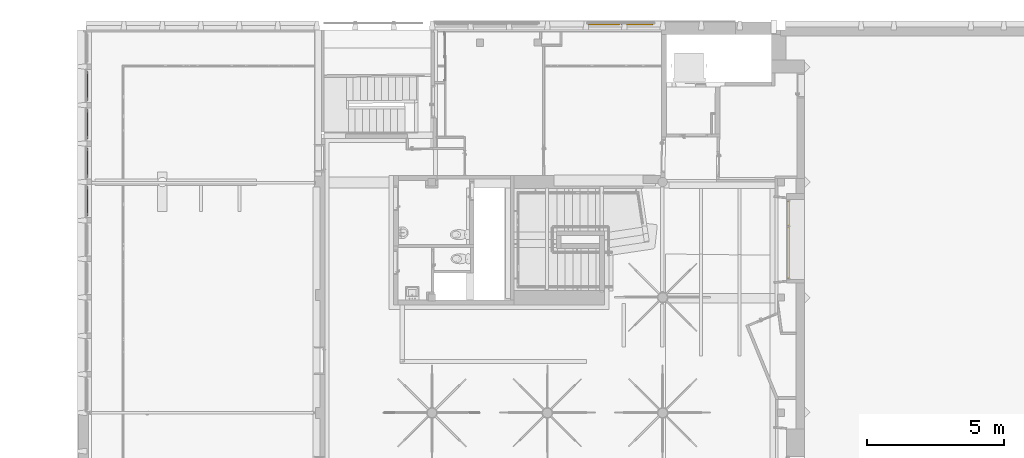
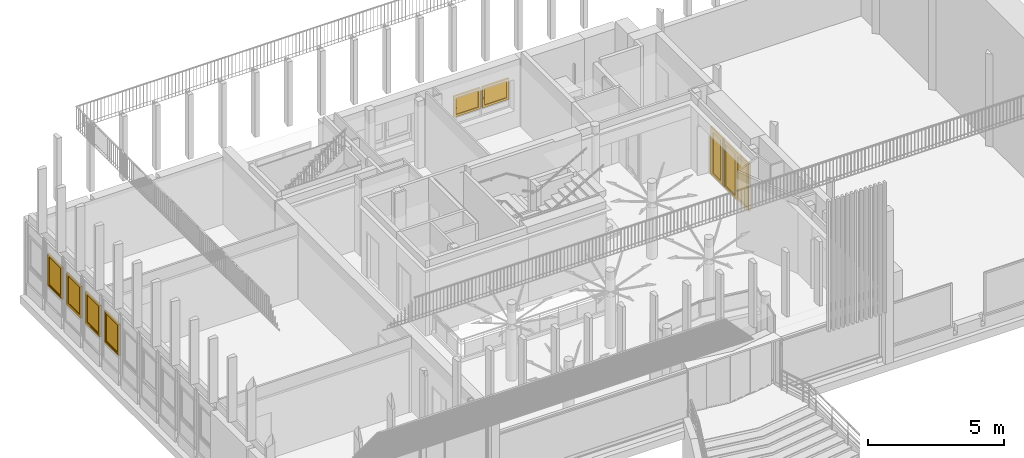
# One storey, part 50 of 65: 6 windows, 2 doors, 6 elements without a shape of their own.
"""IFC4 building model written with IfcOpenShell, lengths in metres."""

from ifc_helpers import new_model, entity, si_unit, converted_unit, derived_unit, direction, frame, origin, place, context, subcontext, project, spatial, indexed_curve, outline, extrude, polygons, source, transform, mapped, material, material_list, constituent, constituent_set, type_object, type_shapes, element, aggregate, save


model = new_model("IFC4")

# Units and contexts
model_context = context("Model", 3, precision=1e-05, world=origin(), true_north=direction((6.12303176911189e-17, 1.0)))
body_context = subcontext(model_context, "Body", "Model", "MODEL_VIEW")
ifc_project = project(units=[si_unit("LENGTHUNIT", "METRE"), si_unit("AREAUNIT", "SQUARE_METRE"), si_unit("VOLUMEUNIT", "CUBIC_METRE"), converted_unit("PLANEANGLEUNIT", "DEGREE", entity("IfcRatioMeasure", 0.0174532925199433), si_unit("PLANEANGLEUNIT", "RADIAN"), dimensions=[0, 0, 0, 0, 0, 0, 0]), si_unit("MASSUNIT", "GRAM", prefix="KILO"), derived_unit("MASSDENSITYUNIT", [(si_unit("MASSUNIT", "GRAM", prefix="KILO"), 1), (si_unit("LENGTHUNIT", "METRE"), -3)]), derived_unit("MOMENTOFINERTIAUNIT", [(si_unit("LENGTHUNIT", "METRE"), 4)]), si_unit("TIMEUNIT", "SECOND"), si_unit("FREQUENCYUNIT", "HERTZ"), si_unit("THERMODYNAMICTEMPERATUREUNIT", "DEGREE_CELSIUS"), derived_unit("THERMALTRANSMITTANCEUNIT", [(si_unit("MASSUNIT", "GRAM", prefix="KILO"), 1), (si_unit("THERMODYNAMICTEMPERATUREUNIT", "KELVIN"), -1), (si_unit("TIMEUNIT", "SECOND"), -3)]), derived_unit("VOLUMETRICFLOWRATEUNIT", [(si_unit("LENGTHUNIT", "METRE"), 3), (si_unit("TIMEUNIT", "SECOND"), -1)]), si_unit("ELECTRICCURRENTUNIT", "AMPERE"), si_unit("ELECTRICVOLTAGEUNIT", "VOLT"), si_unit("POWERUNIT", "WATT"), si_unit("FORCEUNIT", "NEWTON", prefix="KILO"), si_unit("ILLUMINANCEUNIT", "LUX"), si_unit("LUMINOUSFLUXUNIT", "LUMEN"), si_unit("LUMINOUSINTENSITYUNIT", "CANDELA"), derived_unit("USERDEFINED", [(si_unit("MASSUNIT", "GRAM", prefix="KILO"), -1), (si_unit("LENGTHUNIT", "METRE"), -2), (si_unit("TIMEUNIT", "SECOND"), 3), (si_unit("LUMINOUSFLUXUNIT", "LUMEN"), 1)]), derived_unit("LINEARVELOCITYUNIT", [(si_unit("LENGTHUNIT", "METRE"), 1), (si_unit("TIMEUNIT", "SECOND"), -1)]), si_unit("PRESSUREUNIT", "PASCAL"), derived_unit("USERDEFINED", [(si_unit("LENGTHUNIT", "METRE"), -2), (si_unit("MASSUNIT", "GRAM", prefix="KILO"), 1), (si_unit("TIMEUNIT", "SECOND"), -2)]), derived_unit("LINEARFORCEUNIT", [(si_unit("MASSUNIT", "GRAM", prefix="KILO"), 1), (si_unit("LENGTHUNIT", "METRE"), 1), (si_unit("TIMEUNIT", "SECOND"), -2), (si_unit("LENGTHUNIT", "METRE"), -1)]), derived_unit("PLANARFORCEUNIT", [(si_unit("MASSUNIT", "GRAM", prefix="KILO"), 1), (si_unit("LENGTHUNIT", "METRE"), 1), (si_unit("TIMEUNIT", "SECOND"), -2), (si_unit("LENGTHUNIT", "METRE"), -2)])], contexts=[model_context])

# Site, building, storey
site_placement = place(None, origin())
site = spatial("IfcSite", under=ifc_project, at=site_placement, Name="Default", CompositionType="ELEMENT")
building_placement = place(site_placement, origin())
building = spatial("IfcBuilding", under=site, at=building_placement, Name="HOTEL CONSULAIRE BOULOGNE SUR MER", CompositionType="ELEMENT")
storey_placement = place(building_placement, origin())
storey = spatial("IfcBuildingStorey", under=building, at=storey_placement, Name="Niveau 0", CompositionType="ELEMENT", Elevation=1.31981936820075e-13)

# Curtain wall, doors
curtain_wall_type = type_object("IfcCurtainWallType", Name="Mur-rideau:Simple panneau", PredefinedType="NOTDEFINED")
curtain_wall_1_placement = place(storey_placement, origin())
curtain_wall_1 = element("IfcCurtainWall", 1, at=curtain_wall_1_placement, inside=storey, type_object=curtain_wall_type, Name="Mur-rideau:Simple panneau", ObjectType="Mur-rideau:Simple panneau", PredefinedType="NOTDEFINED")
ifc_material_1 = material(Name="PVC, souple", Category="Plastique")
ifc_constituent_1 = constituent(ifc_material_1, Name="PVC, souple", Category="Matériaux")
ifc_material_2 = material(Name="Verre", Category="Verre")
ifc_constituent_2 = constituent(ifc_material_2, Name="Verre", Category="Matériaux")
ifc_constituent_set_1 = constituent_set(constituents=[ifc_constituent_1, ifc_constituent_2], Name="MaterialConstituentSet")
ifc_material_list_1 = material_list([ifc_material_1, ifc_material_1, ifc_material_1])
door_type_1 = type_object("IfcDoorType", Name="Simple vitrée 1:Simple vitrée 1", OperationType="SINGLE_SWING_RIGHT", PredefinedType="DOOR", material=ifc_material_list_1)
shared_shape_1 = source(origin(), body_context, "Body", "SweptSolid", [
    extrude(outline(indexed_curve([(0.397976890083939, -1.05645752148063), (0.447976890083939, -1.05645752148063), (0.447976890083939, 1.08145752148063), (-0.447976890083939, 1.08145752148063), (-0.447976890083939, -1.05645752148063), (-0.397976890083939, -1.05645752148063), (-0.397976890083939, 1.03145752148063), (0.397976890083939, 1.03145752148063), (0.397976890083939, -1.05645752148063)], self_intersect=False)), frame((0.0, -0.045, 1.05645752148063), z_axis=(0.0, 1.0, 0.0), x_axis=(-1.0, 0.0, 0.0)), (0.0, 0.0, 1.0), 0.07),
    extrude(outline(indexed_curve([(-0.277976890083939, -0.005), (0.277976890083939, -0.005), (0.277976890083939, 0.005), (-0.277976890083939, 0.005), (-0.277976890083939, -0.005)], self_intersect=False)), frame((0.0, -0.00999999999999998, 0.12), z_axis=(0.0, 0.0, 1.0), x_axis=(-1.0, 0.0, 0.0)), (0.0, 0.0, 1.0), 1.84791504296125),
    extrude(outline(indexed_curve([(-1.04395752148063, -0.397976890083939), (1.04395752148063, -0.397976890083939), (1.04395752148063, 0.397976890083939), (-1.04395752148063, 0.397976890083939), (-1.04395752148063, -0.397976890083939)], self_intersect=False), holes=[indexed_curve([(-0.923957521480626, -0.277976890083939), (-0.923957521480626, 0.277976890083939), (0.923957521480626, 0.277976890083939), (0.923957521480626, -0.277976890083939), (-0.923957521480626, -0.277976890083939)], self_intersect=False)]), frame((0.0, -0.035, 1.04395752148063), z_axis=(0.0, 1.0, 0.0), x_axis=(0.0, 0.0, -1.0)), (0.0, 0.0, 1.0), 0.05),
])
type_shapes(door_type_1, [shared_shape_1])
door_1_placement = place(curtain_wall_1_placement, frame((11.7425810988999, -16.7524664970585, 0.0), z_axis=(0.0, 0.0, 1.0), x_axis=(0.0, -1.0, 0.0)))
door_1 = element("IfcDoor", 2, at=door_1_placement, type_object=door_type_1, material=ifc_constituent_set_1, Name="Simple vitrée 1:Simple vitrée 1", ObjectType="Simple vitrée 1:Simple vitrée 1", OperationType="SINGLE_SWING_RIGHT", OverallHeight=2.13791504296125, OverallWidth=0.895953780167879, PredefinedType="DOOR", context=body_context, shape_type="MappedRepresentation", body=[
    mapped(shared_shape_1, transform((0.0, 0.0, 0.0), scale=1.0)),
])
ifc_constituent_3 = constituent(ifc_material_1, Name="PVC, souple", Category="Matériaux")
ifc_constituent_4 = constituent(ifc_material_2, Name="Verre", Category="Matériaux")
ifc_constituent_set_2 = constituent_set(constituents=[ifc_constituent_3, ifc_constituent_4], Name="MaterialConstituentSet")
ifc_material_list_2 = material_list([ifc_material_1, ifc_material_1, ifc_material_1])
door_type_2 = type_object("IfcDoorType", Name="Double vitrée1:Double vitrée1", OperationType="SWING_FIXED_RIGHT", PredefinedType="DOOR", material=ifc_material_list_2)
shared_shape_2 = source(origin(), body_context, "Body", "SweptSolid", [
    extrude(outline(indexed_curve([(0.883453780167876, -1.05645752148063), (0.933453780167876, -1.05645752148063), (0.933453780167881, 1.08145752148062), (-0.933453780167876, 1.08145752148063), (-0.933453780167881, -1.05645752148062), (-0.883453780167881, -1.05645752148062), (-0.883453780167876, 1.03145752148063), (0.88345378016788, 1.03145752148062), (0.883453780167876, -1.05645752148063)], self_intersect=False)), frame((0.0, -0.0449999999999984, 1.05645752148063), z_axis=(0.0, 1.0, 0.0), x_axis=(-1.0, 0.0, 0.0)), (0.0, 0.0, 1.0), 0.07),
    extrude(outline(indexed_curve([(-0.341726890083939, -0.005), (0.341726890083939, -0.005), (0.341726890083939, 0.005), (-0.341726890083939, 0.005), (-0.341726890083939, -0.005)], self_intersect=False)), frame((0.441726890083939, -0.00999999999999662, 0.1), z_axis=(0.0, 0.0, 1.0), x_axis=(-1.0, 0.0, 0.0)), (0.0, 0.0, 1.0), 1.88791504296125),
    extrude(outline(indexed_curve([(-0.441726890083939, -1.04395752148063), (0.441726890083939, -1.04395752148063), (0.441726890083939, 1.04395752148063), (-0.441726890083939, 1.04395752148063), (-0.441726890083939, -1.04395752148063)], self_intersect=False), holes=[indexed_curve([(-0.341726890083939, 0.943957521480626), (0.341726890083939, 0.943957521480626), (0.341726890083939, -0.943957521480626), (-0.341726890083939, -0.943957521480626), (-0.341726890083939, 0.943957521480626)], self_intersect=False)]), frame((0.441726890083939, -0.0349999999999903, 1.04395752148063), z_axis=(0.0, 1.0, 0.0), x_axis=(-1.0, 0.0, 0.0)), (0.0, 0.0, 1.0), 0.05),
    extrude(outline(indexed_curve([(-0.341726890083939, -0.005), (0.341726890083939, -0.005), (0.341726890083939, 0.005), (-0.341726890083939, 0.005), (-0.341726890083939, -0.005)], self_intersect=False)), frame((-0.441726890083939, -0.0099999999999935, 0.1), z_axis=(0.0, 0.0, 1.0), x_axis=(-1.0, 0.0, 0.0)), (0.0, 0.0, 1.0), 1.88791504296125),
    extrude(outline(indexed_curve([(-1.04395752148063, -0.441726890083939), (1.04395752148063, -0.441726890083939), (1.04395752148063, 0.441726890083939), (-1.04395752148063, 0.441726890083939), (-1.04395752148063, -0.441726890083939)], self_intersect=False), holes=[indexed_curve([(-0.943957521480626, -0.341726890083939), (-0.943957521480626, 0.341726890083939), (0.943957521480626, 0.341726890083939), (0.943957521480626, -0.341726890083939), (-0.943957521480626, -0.341726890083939)], self_intersect=False)]), frame((-0.441726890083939, -0.0349999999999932, 1.04395752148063), z_axis=(0.0, 1.0, 0.0), x_axis=(0.0, 0.0, -1.0)), (0.0, 0.0, 1.0), 0.05),
])
type_shapes(door_type_2, [shared_shape_2])
door_2_placement = place(curtain_wall_1_placement, frame((11.7425810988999, -18.1838971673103, 0.0), z_axis=(0.0, 0.0, 1.0), x_axis=(0.0, -1.0, 0.0)))
door_2 = element("IfcDoor", 3, at=door_2_placement, type_object=door_type_2, material=ifc_constituent_set_2, Name="Double vitrée1:Double vitrée1", ObjectType="Double vitrée1:Double vitrée1", OperationType="SWING_FIXED_RIGHT", OverallHeight=2.13791504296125, OverallWidth=1.86690756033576, PredefinedType="DOOR", context=body_context, shape_type="MappedRepresentation", body=[
    mapped(shared_shape_2, transform((0.0, 0.0, 0.0), scale=1.0)),
])
aggregate(curtain_wall_1, [door_1, door_2])

# Curtain wall, window
curtain_wall_2_placement = place(storey_placement, origin())
curtain_wall_2 = element("IfcCurtainWall", 4, at=curtain_wall_2_placement, inside=storey, type_object=curtain_wall_type, Name="Mur-rideau:Simple panneau", ObjectType="Mur-rideau:Simple panneau", PredefinedType="NOTDEFINED")
ifc_material_3 = material(Name="PVC - Blanc", Category="Plastique")
ifc_constituent_5 = constituent(ifc_material_3, Name="PVC - Blanc", Category="Matériaux")
ifc_material_4 = material(Name="Fenêtre - Vitrage", Category="Verre")
ifc_constituent_6 = constituent(ifc_material_4, Name="Fenêtre - Vitrage", Category="Matériaux")
ifc_constituent_set_3 = constituent_set(constituents=[ifc_constituent_5, ifc_constituent_6], Name="MaterialConstituentSet")
ifc_material_list_3 = material_list([ifc_material_3, ifc_material_3])
window_type_1 = type_object("IfcWindowType", Name="MR 1 Vantail:MR 1 Vantail", PartitioningType="NOTDEFINED", PredefinedType="WINDOW", material=ifc_material_list_3)
shared_shape_3 = source(origin(), body_context, "Body", "Tessellation", [
    polygons([(-0.460646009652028, -0.0492408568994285, 0.472033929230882), (-0.449353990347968, -0.0492408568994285, 0.472033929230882), (-0.447966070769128, -0.0492408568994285, 0.470646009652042), (-0.447966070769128, -0.0492408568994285, 0.459332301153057), (-0.449332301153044, -0.0492408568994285, 0.457966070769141), (-0.460667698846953, -0.0492408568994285, 0.457966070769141), (-0.462033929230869, -0.0492408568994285, 0.459332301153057), (-0.462033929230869, -0.0492408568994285, 0.470646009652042), (-0.462033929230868, -0.0615795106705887, 0.470646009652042), (-0.460646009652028, -0.0621544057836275, 0.472033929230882), (-0.462033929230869, -0.0568932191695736, 0.459332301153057), (-0.462033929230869, -0.063573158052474, 0.452652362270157), (-0.462033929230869, -0.0635731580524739, 0.370000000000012), (-0.462033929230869, -0.0748868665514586, 0.370000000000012), (-0.462033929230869, -0.0748868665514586, 0.457338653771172), (-0.460667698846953, -0.0563273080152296, 0.457966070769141), (-0.449332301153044, -0.0563273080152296, 0.457966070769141), (-0.447966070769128, -0.0568932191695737, 0.459332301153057), (-0.447966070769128, -0.0615795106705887, 0.470646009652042), (-0.447966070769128, -0.0748868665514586, 0.457338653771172), (-0.447966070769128, -0.0748868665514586, 0.370000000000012), (-0.447966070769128, -0.0635731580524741, 0.370000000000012), (-0.447966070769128, -0.0635731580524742, 0.452652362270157), (-0.449353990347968, -0.0621544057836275, 0.472033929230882), (-0.460646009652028, -0.0762747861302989, 0.457913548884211), (-0.460667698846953, -0.0622069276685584, 0.452086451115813), (-0.449332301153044, -0.0622069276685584, 0.452086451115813), (-0.449353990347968, -0.0762747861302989, 0.457913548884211), (-0.460646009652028, -0.0762747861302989, 0.370000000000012), (-0.460667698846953, -0.0622069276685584, 0.370000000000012), (-0.449332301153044, -0.0622069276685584, 0.370000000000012), (-0.449353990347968, -0.0762747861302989, 0.370000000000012)], [[[6, 7, 8, 1, 2, 3, 4, 5]], [[30, 26, 27, 31]], [[9, 10, 1, 8]], [[11, 12, 13, 14, 15, 9, 8, 7]], [[16, 11, 7, 6]], [[16, 6, 5, 17]], [[31, 22, 21, 32, 29, 14, 13, 30]], [[17, 5, 4, 18]], [[3, 19, 20, 21, 22, 23, 18, 4]], [[19, 3, 2, 24]], [[24, 2, 1, 10]], [[15, 25, 10, 9]], [[26, 12, 11, 16]], [[27, 26, 16, 17]], [[27, 17, 18, 23]], [[20, 19, 24, 28]], [[28, 24, 10, 25]], [[29, 25, 15, 14]], [[13, 12, 26, 30]], [[22, 31, 27, 23]], [[32, 21, 20, 28]], [[32, 28, 25, 29]]], closed=True),
    polygons([(-0.462000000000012, -0.0432408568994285, 0.490000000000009), (-0.447999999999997, -0.0432408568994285, 0.490000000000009), (-0.442999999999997, -0.0432408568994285, 0.48500000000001), (-0.442999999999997, -0.0432408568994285, 0.414999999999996), (-0.447999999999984, -0.0432408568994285, 0.410000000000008), (-0.462000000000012, -0.0432408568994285, 0.410000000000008), (-0.466999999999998, -0.0432408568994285, 0.414999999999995), (-0.466999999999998, -0.0432408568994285, 0.48500000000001), (-0.462000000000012, -0.0492408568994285, 0.490000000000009), (-0.466999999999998, -0.0492408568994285, 0.48500000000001), (-0.466999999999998, -0.0492408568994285, 0.414999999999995), (-0.462000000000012, -0.0492408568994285, 0.410000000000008), (-0.447999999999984, -0.0492408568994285, 0.410000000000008), (-0.442999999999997, -0.0492408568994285, 0.414999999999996), (-0.442999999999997, -0.0492408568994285, 0.48500000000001), (-0.447999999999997, -0.0492408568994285, 0.490000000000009)], [[[2, 3, 4, 5, 6, 7, 8, 1]], [[13, 14, 15, 16, 9, 10, 11, 12]], [[9, 1, 8, 10]], [[10, 8, 7, 11]], [[11, 7, 6, 12]], [[12, 6, 5, 13]], [[13, 5, 4, 14]], [[15, 14, 4, 3]], [[15, 3, 2, 16]], [[16, 2, 1, 9]]], closed=True),
    polygons([(0.430000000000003, -0.0192408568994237, 1.334), (-0.430000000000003, -0.0192408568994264, 1.334), (-0.430000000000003, -0.0192408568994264, 0.1), (0.430000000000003, -0.0192408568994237, 0.1), (0.430000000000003, -0.00724085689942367, 1.334), (0.430000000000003, -0.00724085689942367, 0.1), (-0.430000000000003, -0.00724085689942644, 0.1), (-0.430000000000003, -0.00724085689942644, 1.334)], [[[4, 1, 2, 3]], [[7, 8, 5, 6]], [[2, 1, 5, 8]], [[3, 2, 8, 7]], [[4, 3, 7, 6]], [[1, 4, 6, 5]]], closed=True),
    polygons([(-0.480000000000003, 0.0167591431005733, 1.384), (-0.480000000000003, -0.043240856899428, 1.384), (0.480000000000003, -0.043240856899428, 1.384), (0.480000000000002, 0.0167591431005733, 1.384), (-0.430000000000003, -0.043240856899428, 1.334), (-0.430000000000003, 0.0167591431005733, 1.334), (0.430000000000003, 0.0167591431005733, 1.334), (0.430000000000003, -0.043240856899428, 1.334), (0.480000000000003, -0.043240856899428, 0.0500000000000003), (0.480000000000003, 0.0167591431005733, 0.0500000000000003), (0.430000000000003, 0.0167591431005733, 0.1), (0.430000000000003, -0.043240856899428, 0.1), (-0.480000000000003, -0.043240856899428, 0.0500000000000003), (-0.480000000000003, 0.0167591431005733, 0.0500000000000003), (-0.430000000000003, 0.0167591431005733, 0.1), (-0.430000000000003, -0.043240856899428, 0.1)], [[[1, 2, 3, 4]], [[12, 11, 15, 16]], [[5, 6, 7, 8]], [[10, 9, 13, 14]], [[4, 3, 9, 10]], [[16, 15, 6, 5]], [[8, 7, 11, 12]], [[14, 13, 2, 1]], [[9, 3, 2, 13], [16, 5, 8, 12]], [[14, 1, 4, 10], [11, 7, 6, 15]]], closed=True),
    polygons([(-0.470000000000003, 0.016759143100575, 1.374), (-0.470000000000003, 0.0267591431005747, 1.374), (0.470000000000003, 0.0267591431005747, 1.374), (0.470000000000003, 0.016759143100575, 1.374), (-0.480000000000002, -0.0432408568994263, 1.384), (-0.480000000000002, 0.016759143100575, 1.384), (0.480000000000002, 0.016759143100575, 1.384), (0.480000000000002, -0.0432408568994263, 1.384), (-0.530000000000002, 0.0267591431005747, 1.434), (-0.530000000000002, -0.0432408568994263, 1.434), (0.530000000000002, -0.0432408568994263, 1.434), (0.530000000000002, 0.0267591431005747, 1.434), (0.470000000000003, 0.0267591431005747, 0.0600000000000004), (0.470000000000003, 0.016759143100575, 0.0600000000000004), (0.480000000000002, 0.016759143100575, 0.0500000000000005), (0.480000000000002, -0.0432408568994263, 0.0500000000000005), (0.530000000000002, -0.0432408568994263, 5.41433564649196e-16), (0.530000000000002, 0.0267591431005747, 5.41433564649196e-16), (-0.470000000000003, 0.0267591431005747, 0.0600000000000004), (-0.470000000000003, 0.016759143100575, 0.0600000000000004), (-0.480000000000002, 0.016759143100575, 0.0500000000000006), (-0.480000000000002, -0.0432408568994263, 0.0500000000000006), (-0.530000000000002, -0.0432408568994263, 5.41433564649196e-16), (-0.530000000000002, 0.0267591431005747, 5.41433564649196e-16)], [[[1, 2, 3, 4]], [[5, 6, 7, 8]], [[18, 17, 23, 24]], [[9, 10, 11, 12]], [[14, 13, 19, 20]], [[16, 15, 21, 22]], [[4, 3, 13, 14]], [[8, 7, 15, 16]], [[24, 23, 10, 9]], [[12, 11, 17, 18]], [[20, 19, 2, 1]], [[22, 21, 6, 5]], [[24, 9, 12, 18], [13, 3, 2, 19]], [[15, 7, 6, 21], [20, 1, 4, 14]], [[17, 11, 10, 23], [22, 5, 8, 16]]], closed=True),
])
type_shapes(window_type_1, [shared_shape_3])
window_1_placement = place(curtain_wall_2_placement, frame((-13.7900998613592, -16.3114499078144, 1.0419999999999), z_axis=(0.0, 0.0, 1.0), x_axis=(0.0, 1.0, 0.0)))
window_1 = element("IfcWindow", 5, at=window_1_placement, type_object=window_type_1, material=ifc_constituent_set_3, Name="MR 1 Vantail:MR 1 Vantail", ObjectType="MR 1 Vantail:MR 1 Vantail", OverallHeight=1.434, OverallWidth=1.06000000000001, PartitioningType="NOTDEFINED", PredefinedType="WINDOW", context=body_context, shape_type="MappedRepresentation", body=[
    mapped(shared_shape_3, transform((0.0, 0.0, 0.0), scale=1.0)),
])
aggregate(curtain_wall_2, [window_1])

curtain_wall_3_placement = place(storey_placement, origin())
curtain_wall_3 = element("IfcCurtainWall", 6, at=curtain_wall_3_placement, inside=storey, type_object=curtain_wall_type, Name="Mur-rideau:Simple panneau", ObjectType="Mur-rideau:Simple panneau", PredefinedType="NOTDEFINED")
ifc_constituent_7 = constituent(ifc_material_3, Name="PVC - Blanc", Category="Matériaux")
ifc_constituent_8 = constituent(ifc_material_4, Name="Fenêtre - Vitrage", Category="Matériaux")
ifc_constituent_set_4 = constituent_set(constituents=[ifc_constituent_7, ifc_constituent_8], Name="MaterialConstituentSet")
window_2_placement = place(curtain_wall_3_placement, frame((-13.7900998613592, -14.9114499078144, 1.0419999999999), z_axis=(0.0, 0.0, 1.0), x_axis=(0.0, 1.0, 0.0)))
window_2 = element("IfcWindow", 7, at=window_2_placement, type_object=window_type_1, material=ifc_constituent_set_4, Name="MR 1 Vantail:MR 1 Vantail", ObjectType="MR 1 Vantail:MR 1 Vantail", OverallHeight=1.434, OverallWidth=1.06000000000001, PartitioningType="NOTDEFINED", PredefinedType="WINDOW", context=body_context, shape_type="MappedRepresentation", body=[
    mapped(shared_shape_3, transform((0.0, 0.0, 0.0), scale=1.0)),
])
aggregate(curtain_wall_3, [window_2])

curtain_wall_4_placement = place(storey_placement, origin())
curtain_wall_4 = element("IfcCurtainWall", 8, at=curtain_wall_4_placement, inside=storey, type_object=curtain_wall_type, Name="Mur-rideau:Simple panneau", ObjectType="Mur-rideau:Simple panneau", PredefinedType="NOTDEFINED")
ifc_constituent_9 = constituent(ifc_material_3, Name="PVC - Blanc", Category="Matériaux")
ifc_constituent_10 = constituent(ifc_material_4, Name="Fenêtre - Vitrage", Category="Matériaux")
ifc_constituent_set_5 = constituent_set(constituents=[ifc_constituent_9, ifc_constituent_10], Name="MaterialConstituentSet")
window_3_placement = place(curtain_wall_4_placement, frame((-13.7900998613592, -13.5114499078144, 1.0419999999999), z_axis=(0.0, 0.0, 1.0), x_axis=(0.0, 1.0, 0.0)))
window_3 = element("IfcWindow", 9, at=window_3_placement, type_object=window_type_1, material=ifc_constituent_set_5, Name="MR 1 Vantail:MR 1 Vantail", ObjectType="MR 1 Vantail:MR 1 Vantail", OverallHeight=1.434, OverallWidth=1.06000000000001, PartitioningType="NOTDEFINED", PredefinedType="WINDOW", context=body_context, shape_type="MappedRepresentation", body=[
    mapped(shared_shape_3, transform((0.0, 0.0, 0.0), scale=1.0)),
])
aggregate(curtain_wall_4, [window_3])

curtain_wall_5_placement = place(storey_placement, origin())
curtain_wall_5 = element("IfcCurtainWall", 10, at=curtain_wall_5_placement, inside=storey, type_object=curtain_wall_type, Name="Mur-rideau:Simple panneau", ObjectType="Mur-rideau:Simple panneau", PredefinedType="NOTDEFINED")
ifc_constituent_11 = constituent(ifc_material_3, Name="PVC - Blanc", Category="Matériaux")
ifc_constituent_12 = constituent(ifc_material_4, Name="Fenêtre - Vitrage", Category="Matériaux")
ifc_constituent_set_6 = constituent_set(constituents=[ifc_constituent_11, ifc_constituent_12], Name="MaterialConstituentSet")
window_4_placement = place(curtain_wall_5_placement, frame((-13.7900998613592, -12.1114499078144, 1.0419999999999), z_axis=(0.0, 0.0, 1.0), x_axis=(0.0, 1.0, 0.0)))
window_4 = element("IfcWindow", 11, at=window_4_placement, type_object=window_type_1, material=ifc_constituent_set_6, Name="MR 1 Vantail:MR 1 Vantail", ObjectType="MR 1 Vantail:MR 1 Vantail", OverallHeight=1.434, OverallWidth=1.06000000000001, PartitioningType="NOTDEFINED", PredefinedType="WINDOW", context=body_context, shape_type="MappedRepresentation", body=[
    mapped(shared_shape_3, transform((0.0, 0.0, 0.0), scale=1.0)),
])
aggregate(curtain_wall_5, [window_4])

# Curtain wall, windows
curtain_wall_6_placement = place(storey_placement, origin())
curtain_wall_6 = element("IfcCurtainWall", 12, at=curtain_wall_6_placement, inside=storey, type_object=curtain_wall_type, Name="Mur-rideau:Simple panneau", ObjectType="Mur-rideau:Simple panneau", PredefinedType="NOTDEFINED")
ifc_constituent_13 = constituent(ifc_material_3, Name="PVC - Blanc", Category="Matériaux")
ifc_constituent_14 = constituent(ifc_material_4, Name="Fenêtre - Vitrage", Category="Matériaux")
ifc_constituent_set_7 = constituent_set(constituents=[ifc_constituent_13, ifc_constituent_14], Name="MaterialConstituentSet")
ifc_material_list_4 = material_list([ifc_material_3, ifc_material_3])
window_type_2 = type_object("IfcWindowType", Name="MR 1 Vantail:MR 1 Vantail", PartitioningType="NOTDEFINED", PredefinedType="WINDOW", material=ifc_material_list_4)
shared_shape_4 = source(origin(), body_context, "Body", "Tessellation", [
    polygons([(-0.499396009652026, -0.0492408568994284, 0.472033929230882), (-0.488103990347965, -0.0492408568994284, 0.472033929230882), (-0.486716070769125, -0.0492408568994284, 0.470646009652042), (-0.486716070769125, -0.0492408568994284, 0.459332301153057), (-0.488082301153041, -0.0492408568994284, 0.457966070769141), (-0.49941769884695, -0.0492408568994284, 0.457966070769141), (-0.500783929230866, -0.0492408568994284, 0.459332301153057), (-0.500783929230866, -0.0492408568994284, 0.470646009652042), (-0.500783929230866, -0.0615795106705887, 0.470646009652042), (-0.499396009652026, -0.0621544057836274, 0.472033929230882), (-0.500783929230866, -0.0568932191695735, 0.459332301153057), (-0.500783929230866, -0.0635731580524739, 0.452652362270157), (-0.500783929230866, -0.0635731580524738, 0.370000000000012), (-0.500783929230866, -0.0748868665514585, 0.370000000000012), (-0.500783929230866, -0.0748868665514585, 0.457338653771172), (-0.49941769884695, -0.0563273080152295, 0.457966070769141), (-0.488082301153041, -0.0563273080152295, 0.457966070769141), (-0.486716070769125, -0.0568932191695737, 0.459332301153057), (-0.486716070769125, -0.0615795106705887, 0.470646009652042), (-0.486716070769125, -0.0748868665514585, 0.457338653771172), (-0.486716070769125, -0.0748868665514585, 0.370000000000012), (-0.486716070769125, -0.0635731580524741, 0.370000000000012), (-0.486716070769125, -0.0635731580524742, 0.452652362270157), (-0.488103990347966, -0.0621544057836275, 0.472033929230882), (-0.499396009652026, -0.0762747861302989, 0.457913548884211), (-0.49941769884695, -0.0622069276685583, 0.452086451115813), (-0.488082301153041, -0.0622069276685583, 0.452086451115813), (-0.488103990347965, -0.0762747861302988, 0.457913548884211), (-0.499396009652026, -0.0762747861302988, 0.370000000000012), (-0.49941769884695, -0.0622069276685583, 0.370000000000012), (-0.488082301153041, -0.0622069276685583, 0.370000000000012), (-0.488103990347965, -0.0762747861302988, 0.370000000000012)], [[[6, 7, 8, 1, 2, 3, 4, 5]], [[30, 26, 27, 31]], [[9, 10, 1, 8]], [[11, 12, 13, 14, 15, 9, 8, 7]], [[16, 11, 7, 6]], [[16, 6, 5, 17]], [[31, 22, 21, 32, 29, 14, 13, 30]], [[17, 5, 4, 18]], [[3, 19, 20, 21, 22, 23, 18, 4]], [[19, 3, 2, 24]], [[24, 2, 1, 10]], [[15, 25, 10, 9]], [[26, 12, 11, 16]], [[27, 26, 16, 17]], [[27, 17, 18, 23]], [[20, 19, 24, 28]], [[28, 24, 10, 25]], [[29, 25, 15, 14]], [[13, 12, 26, 30]], [[22, 31, 27, 23]], [[32, 21, 20, 28]], [[32, 28, 25, 29]]], closed=True),
    polygons([(-0.50075000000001, -0.0432408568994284, 0.490000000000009), (-0.486749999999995, -0.0432408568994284, 0.490000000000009), (-0.481749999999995, -0.0432408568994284, 0.48500000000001), (-0.481749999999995, -0.0432408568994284, 0.414999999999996), (-0.486749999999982, -0.0432408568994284, 0.410000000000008), (-0.50075000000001, -0.0432408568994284, 0.410000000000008), (-0.505749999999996, -0.0432408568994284, 0.414999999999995), (-0.505749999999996, -0.0432408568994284, 0.48500000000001), (-0.50075000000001, -0.0492408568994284, 0.490000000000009), (-0.505749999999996, -0.0492408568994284, 0.48500000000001), (-0.505749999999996, -0.0492408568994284, 0.414999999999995), (-0.50075000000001, -0.0492408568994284, 0.410000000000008), (-0.486749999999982, -0.0492408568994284, 0.410000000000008), (-0.481749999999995, -0.0492408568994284, 0.414999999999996), (-0.481749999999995, -0.0492408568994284, 0.48500000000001), (-0.486749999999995, -0.0492408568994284, 0.490000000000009)], [[[2, 3, 4, 5, 6, 7, 8, 1]], [[13, 14, 15, 16, 9, 10, 11, 12]], [[9, 1, 8, 10]], [[10, 8, 7, 11]], [[11, 7, 6, 12]], [[12, 6, 5, 13]], [[13, 5, 4, 14]], [[15, 14, 4, 3]], [[15, 3, 2, 16]], [[16, 2, 1, 9]]], closed=True),
    polygons([(0.468750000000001, -0.0192408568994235, 0.84826605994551), (-0.468750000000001, -0.0192408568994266, 0.84826605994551), (-0.468750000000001, -0.0192408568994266, 0.0999999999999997), (0.468750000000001, -0.0192408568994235, 0.0999999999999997), (0.468750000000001, -0.00724085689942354, 0.84826605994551), (0.468750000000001, -0.00724085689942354, 0.0999999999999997), (-0.468750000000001, -0.00724085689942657, 0.0999999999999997), (-0.468750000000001, -0.00724085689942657, 0.84826605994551)], [[[4, 1, 2, 3]], [[7, 8, 5, 6]], [[2, 1, 5, 8]], [[3, 2, 8, 7]], [[4, 3, 7, 6]], [[1, 4, 6, 5]]], closed=True),
    polygons([(-0.51875, 0.0167591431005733, 0.89826605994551), (-0.51875, -0.043240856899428, 0.89826605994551), (0.51875, -0.043240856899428, 0.89826605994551), (0.51875, 0.0167591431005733, 0.89826605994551), (-0.468750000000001, -0.043240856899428, 0.84826605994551), (-0.468750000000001, 0.0167591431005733, 0.84826605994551), (0.468750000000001, 0.0167591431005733, 0.84826605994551), (0.468750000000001, -0.043240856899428, 0.84826605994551), (0.51875, -0.043240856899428, 0.0500000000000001), (0.51875, 0.0167591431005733, 0.0500000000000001), (0.468750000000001, 0.0167591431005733, 0.0999999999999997), (0.468750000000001, -0.043240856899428, 0.0999999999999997), (-0.51875, -0.043240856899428, 0.0500000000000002), (-0.51875, 0.0167591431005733, 0.0500000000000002), (-0.468750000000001, 0.0167591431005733, 0.0999999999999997), (-0.468750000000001, -0.043240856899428, 0.0999999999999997)], [[[1, 2, 3, 4]], [[12, 11, 15, 16]], [[5, 6, 7, 8]], [[10, 9, 13, 14]], [[4, 3, 9, 10]], [[16, 15, 6, 5]], [[8, 7, 11, 12]], [[14, 13, 2, 1]], [[9, 3, 2, 13], [16, 5, 8, 12]], [[14, 1, 4, 10], [11, 7, 6, 15]]], closed=True),
    polygons([(-0.50875, 0.016759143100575, 0.88826605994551), (-0.50875, 0.0267591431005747, 0.88826605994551), (0.50875, 0.0267591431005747, 0.88826605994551), (0.50875, 0.016759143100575, 0.88826605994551), (-0.51875, -0.0432408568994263, 0.89826605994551), (-0.51875, 0.016759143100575, 0.89826605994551), (0.51875, 0.016759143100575, 0.89826605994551), (0.51875, -0.0432408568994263, 0.89826605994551), (-0.56875, 0.0267591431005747, 0.94826605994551), (-0.56875, -0.0432408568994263, 0.94826605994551), (0.56875, -0.0432408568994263, 0.94826605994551), (0.56875, 0.0267591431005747, 0.94826605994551), (0.50875, 0.0267591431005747, 0.0600000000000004), (0.50875, 0.016759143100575, 0.0600000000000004), (0.51875, 0.016759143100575, 0.0500000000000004), (0.51875, -0.0432408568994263, 0.0500000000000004), (0.56875, -0.0432408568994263, 4.06075173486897e-16), (0.56875, 0.0267591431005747, 4.06075173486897e-16), (-0.50875, 0.0267591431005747, 0.0600000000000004), (-0.50875, 0.016759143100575, 0.0600000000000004), (-0.51875, 0.016759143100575, 0.0500000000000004), (-0.51875, -0.0432408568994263, 0.0500000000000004), (-0.56875, -0.0432408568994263, 4.06075173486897e-16), (-0.56875, 0.0267591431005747, 4.06075173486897e-16)], [[[1, 2, 3, 4]], [[5, 6, 7, 8]], [[18, 17, 23, 24]], [[9, 10, 11, 12]], [[14, 13, 19, 20]], [[16, 15, 21, 22]], [[4, 3, 13, 14]], [[8, 7, 15, 16]], [[24, 23, 10, 9]], [[12, 11, 17, 18]], [[20, 19, 2, 1]], [[22, 21, 6, 5]], [[24, 9, 12, 18], [13, 3, 2, 19]], [[15, 7, 6, 21], [20, 1, 4, 14]], [[17, 11, 10, 23], [22, 5, 8, 16]]], closed=True),
])
type_shapes(window_type_2, [shared_shape_4])
window_5_placement = place(curtain_wall_6_placement, frame((5.0373264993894, -9.84674446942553, 1.17273394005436)))
window_5 = element("IfcWindow", 13, at=window_5_placement, type_object=window_type_2, material=ifc_constituent_set_7, Name="MR 1 Vantail:MR 1 Vantail", ObjectType="MR 1 Vantail:MR 1 Vantail", OverallHeight=0.948266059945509, OverallWidth=1.1375, PartitioningType="NOTDEFINED", PredefinedType="WINDOW", context=body_context, shape_type="MappedRepresentation", body=[
    mapped(shared_shape_4, transform((0.0, 0.0, 0.0), scale=1.0)),
])
ifc_constituent_15 = constituent(ifc_material_3, Name="PVC - Blanc", Category="Matériaux")
ifc_constituent_16 = constituent(ifc_material_4, Name="Fenêtre - Vitrage", Category="Matériaux")
ifc_constituent_set_8 = constituent_set(constituents=[ifc_constituent_15, ifc_constituent_16], Name="MaterialConstituentSet")
window_6_placement = place(curtain_wall_6_placement, frame((6.2448264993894, -9.84674446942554, 1.17273394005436)))
window_6 = element("IfcWindow", 14, at=window_6_placement, type_object=window_type_2, material=ifc_constituent_set_8, Name="MR 1 Vantail:MR 1 Vantail", ObjectType="MR 1 Vantail:MR 1 Vantail", OverallHeight=0.948266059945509, OverallWidth=1.1375, PartitioningType="NOTDEFINED", PredefinedType="WINDOW", context=body_context, shape_type="MappedRepresentation", body=[
    mapped(shared_shape_4, transform((0.0, 0.0, 0.0), scale=1.0)),
])
aggregate(curtain_wall_6, [window_5, window_6])

save(model, "model.ifc")
